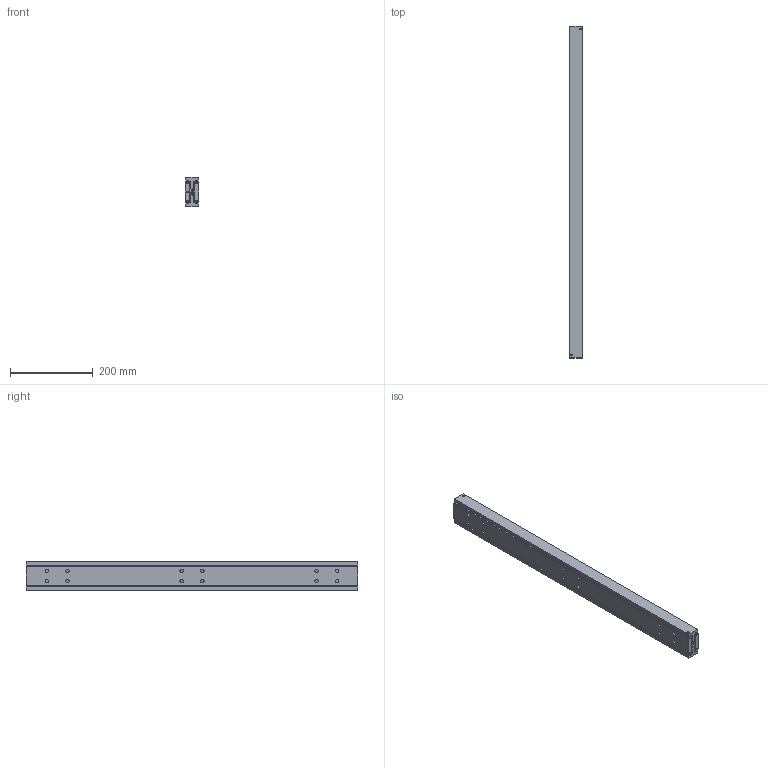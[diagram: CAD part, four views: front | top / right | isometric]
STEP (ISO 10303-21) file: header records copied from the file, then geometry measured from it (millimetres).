
FILE_DESCRIPTION(/* description */ (''),/* implementation_level */ '2;1');
FILE_NAME(/* name */ 'C:\Users\Miluxor\Desktop\Miluxor Schienen\Original Zeichnungen\Zeichnungen Schienen Komplett\MX-DTP70\MX-DTP70.080\MX-DTP70.080 eingefahren.stp',/* time_stamp */ '2019-01-24T12:19:06+01:00',/* author */ ('Miluxor'),/* organization */ (''),/* preprocessor_version */ 'ST-DEVELOPER v16.13',/* originating_system */ 'AutoCAD Mechanical',/* authorisation */ '');
FILE_SCHEMA (('AUTOMOTIVE_DESIGN { 1 0 10303 214 3 1 1 }'));
Length unit declared in the file: millimetre
Products named in the file (1): Product
Bounding box: 32 x 800 x 70 mm (x, y, z)
Volume: 1366802.6 mm3; surface area: 509535.7 mm2
Topology: 63 solids, 89 shells, 456 faces, 1370 edges, 940 vertices
Faces by surface type: plane 318, sphere 52, cylinder 44, bspline 20, torus 18, cone 4
Full cylindrical faces by diameter (mm): 6 x2, 8 x24, 13 x2
Entity records: 33251 total; most frequent: CARTESIAN_POINT 21621, DIRECTION 2290, ORIENTED_EDGE 1876, EDGE_CURVE 1198, VERTEX_POINT 922, LINE 872, VECTOR 872, AXIS2_PLACEMENT_3D 709
